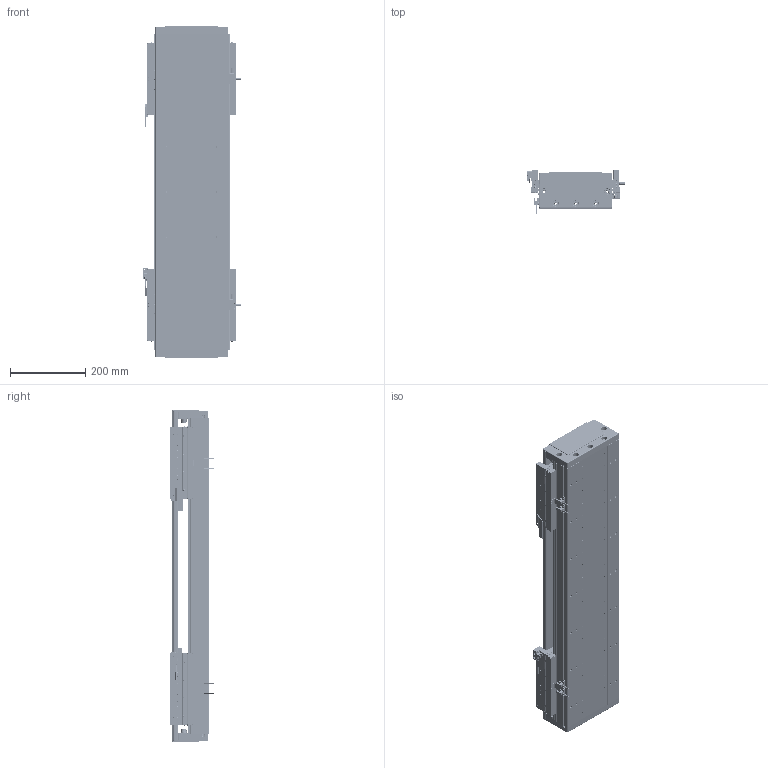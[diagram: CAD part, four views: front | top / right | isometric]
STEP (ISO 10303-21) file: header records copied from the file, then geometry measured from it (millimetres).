
FILE_DESCRIPTION (( 'STEP AP203' ), '1' );
FILE_NAME ('DA-C195-2-C2-T380-C010-0.2 眻盄萇儂.STEP', '2025-08-14T01:47:34', ( '' ), ( '' ), 'SwSTEP 2.0', 'SolidWorks 2019', '' );
FILE_SCHEMA (( 'CONFIG_CONTROL_DESIGN' ));
Length unit declared in the file: millimetre
Products named in the file (16): CU195-C2賑輸-俋楷; LMT黍杅芛; 葩璃 DA95-GT-T-00; DKW-GYP-ZJ-00 笢潔嫖萇覜茼え; MS200 棠掑喜S315-T240; PM-T45ㄗ侂狟ㄘ; 66156-0001-005-00 光电感应片(默认); IU-CU195-L-00 菁釱(L840); PM-Y65嫖萇羲壽郪璃; DA195-DG-H-00  端盖（压铸镂空版）; DKW168-HXJ-ZJ-00 笢潔滅袉砎蝶; IU-CU195-L 菁釱絳寢; 66156-0001-003-00 裔啣; DKW-KGZ-ZJ-00 中间光电开关支架; DA95-HXJ-00 遣喳砎蝶; DA-C195-2-C2-T380-C010-0.2 眻盄萇儂
Assembly tree (28 placements, depth 3):
  DA-C195-2-C2-T380-C010-0.2 眻盄萇儂
    IU-CU195-L 菁釱絳寢
      IU-CU195-L-00 菁釱(L840)
      葩璃 DA95-GT-T-00  x4
    LMT黍杅芛  x2
    MS200 棠掑喜S315-T240
    PM-T45ㄗ侂狟ㄘ  x4
    66156-0001-005-00 光电感应片(默认)  x2
    DA195-DG-H-00  端盖（压铸镂空版）  x2
    DA95-HXJ-00 遣喳砎蝶  x4
    PM-Y65嫖萇羲壽郪璃
    66156-0001-003-00 裔啣
    DKW168-HXJ-ZJ-00 笢潔滅袉砎蝶
    DKW-GYP-ZJ-00 笢潔嫖萇覜茼え
    DKW-KGZ-ZJ-00 中间光电开关支架
    CU195-C2賑輸-俋楷  x2
Bounding box: 258.2 x 115.6 x 880 mm (x, y, z)
Volume: 7770348.7 mm3; surface area: 2131513.3 mm2
Topology: 106 solids, 242 shells, 7736 faces, 19224 edges, 11651 vertices
Faces by surface type: cylinder 3066, plane 2854, cone 946, bspline 718, torus 80, sphere 72
Entity records: 148549 total; most frequent: CARTESIAN_POINT 44676, ORIENTED_EDGE 21450, DIRECTION 20762, EDGE_CURVE 10725, AXIS2_PLACEMENT_3D 7559, VERTEX_POINT 6766, LINE 5644, VECTOR 5644
